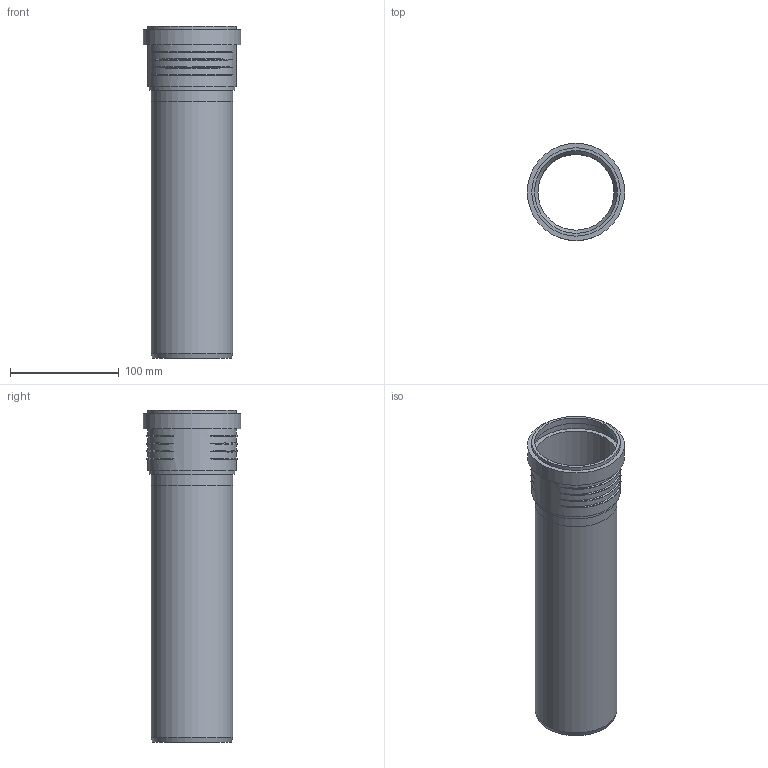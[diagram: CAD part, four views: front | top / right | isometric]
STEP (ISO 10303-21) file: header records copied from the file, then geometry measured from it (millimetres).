
FILE_DESCRIPTION(/* description */ (''),/* implementation_level */ '2;1');
FILE_NAME(/* name */ 'Z:\Geberit\Export\NewStep\390301.stp',/* time_stamp */ '2014-04-02T08:11:06+02:00',/* author */ ('ML'),/* organization */ (''),/* preprocessor_version */ 'ST-DEVELOPER v15.2',/* originating_system */ 'Autodesk Inventor 2014',/* authorisation */ '');
FILE_SCHEMA (('AUTOMOTIVE_DESIGN { 1 0 10303 214 3 1 1 }'));
Length unit declared in the file: millimetre
Products named in the file (3): 861700; 861701ohne; 390301
Bounding box: 89.6 x 89.6 x 305.7 mm (x, y, z)
Volume: 198136.2 mm3; surface area: 155109.3 mm2
Topology: 2 solids, 2 shells, 47 faces, 104 edges, 71 vertices
Faces by surface type: torus 24, cylinder 11, plane 10, cone 2
Full cylindrical faces by diameter (mm): 70 x2, 75.2 x2, 76.2 x2, 78.8 x1, 81.4 x2, 84.4 x1, 89.6 x1
Entity records: 2003 total; most frequent: CARTESIAN_POINT 962, DIRECTION 182, ORIENTED_EDGE 174, AXIS2_PLACEMENT_3D 91, EDGE_CURVE 87, EDGE_LOOP 78, VERTEX_POINT 71, STYLED_ITEM 49
